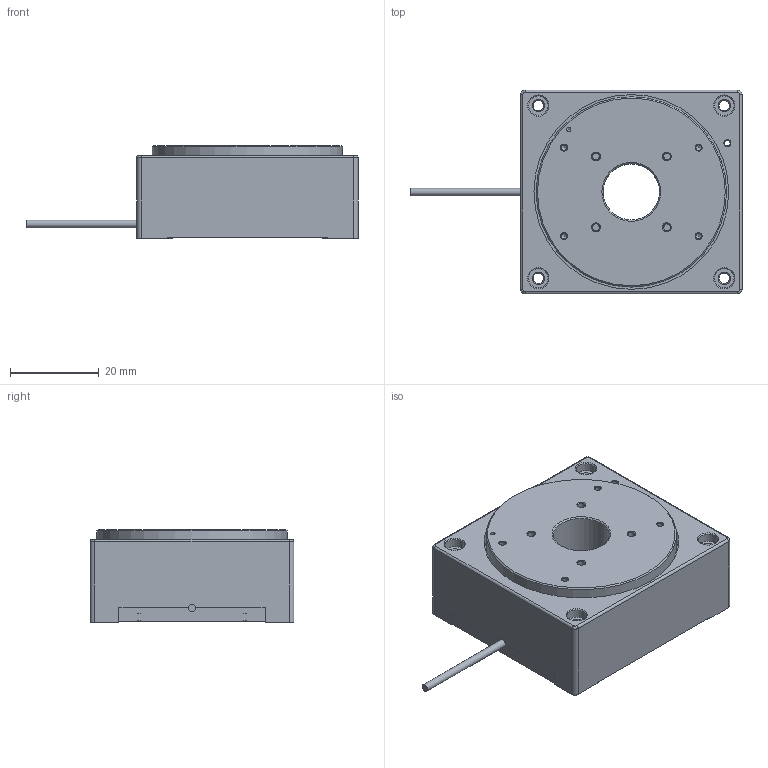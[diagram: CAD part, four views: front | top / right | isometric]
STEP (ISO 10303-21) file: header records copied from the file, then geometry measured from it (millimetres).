
FILE_DESCRIPTION(/* description */ (''),/* implementation_level */ '2;1');
FILE_NAME(/* name */ 'XRT-U-40.stp',/* time_stamp */ '2020-04-20T20:00:31+02:00',/* author */ (''),/* organization */ ('Xeryon'),/* preprocessor_version */ 'ST-DEVELOPER v16',/* originating_system */ 'SIEMENS PLM Software NX 10.0',/* authorisation */ '');
FILE_SCHEMA (('AUTOMOTIVE_DESIGN { 1 0 10303 214 3 1 1 1 }'));
Bounding box: 75 x 46 x 20.95 mm (x, y, z)
Volume: 37636.6 mm3; surface area: 18683.2 mm2
Topology: 9 solids, 9 shells, 292 faces, 692 edges, 441 vertices
Faces by surface type: cylinder 113, plane 102, cone 53, bspline 19, torus 5
Full cylindrical faces by diameter (mm): 1 x1, 1.25 x8, 1.6 x4, 1.7 x1, 1.8 x5, 2 x1, 2.4 x4, 3 x5, 3.5 x5, 4.4 x4, 12.7 x1, 15 x1, 17 x2, 21.5 x1, 25 x1, 26.5 x1, 43 x1, 44 x1
Entity records: 9768 total; most frequent: CRTPNT 5524, DRCTN 900, ORNEDG 666, A2PL3D 385, EDGCRV 333, EDGLP 332, FCBND 271, VRTPNT 269
